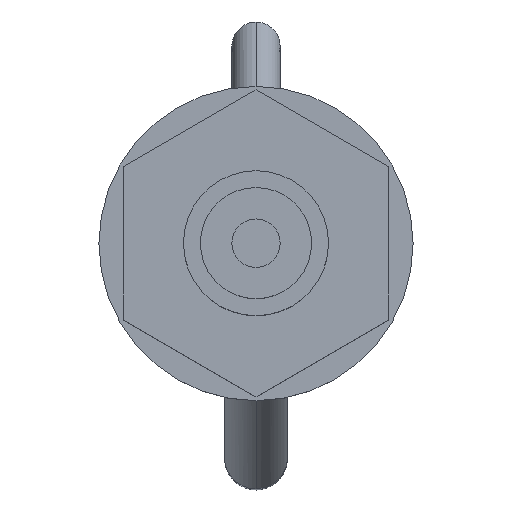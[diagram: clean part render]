
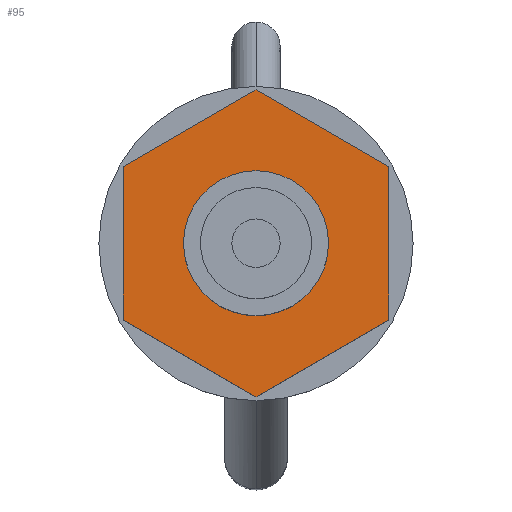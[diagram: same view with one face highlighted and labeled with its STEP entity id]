
A CAD part, top view. The second image highlights one B-rep face of the part: STEP entity #95.
In plain terms, the highlighted planar face has unit normal (0, 0, 1) as drawn and (-1, 0, 0) by its records, which use the part's own axes.
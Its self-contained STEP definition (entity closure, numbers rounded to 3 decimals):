
#39 = EDGE_CURVE ( 'NONE', #40, #107, #714, .T. ) ;
#40 = VERTEX_POINT ( 'NONE', #709 ) ;
#78 = EDGE_CURVE ( 'NONE', #79, #80, #771, .T. ) ;
#79 = VERTEX_POINT ( 'NONE', #767 ) ;
#80 = VERTEX_POINT ( 'NONE', #766 ) ;
#81 = ORIENTED_EDGE ( 'NONE', *, *, #82, .T. ) ;
#82 = EDGE_CURVE ( 'NONE', #80, #83, #765, .T. ) ;
#83 = VERTEX_POINT ( 'NONE', #761 ) ;
#84 = ORIENTED_EDGE ( 'NONE', *, *, #85, .T. ) ;
#85 = EDGE_CURVE ( 'NONE', #83, #86, #760, .T. ) ;
#86 = VERTEX_POINT ( 'NONE', #756 ) ;
#87 = ORIENTED_EDGE ( 'NONE', *, *, #88, .T. ) ;
#88 = EDGE_CURVE ( 'NONE', #86, #89, #755, .T. ) ;
#89 = VERTEX_POINT ( 'NONE', #751 ) ;
#90 = ORIENTED_EDGE ( 'NONE', *, *, #91, .T. ) ;
#91 = EDGE_CURVE ( 'NONE', #89, #92, #750, .T. ) ;
#92 = VERTEX_POINT ( 'NONE', #811 ) ;
#95 = ADVANCED_FACE ( 'NONE', ( #806, #805 ), #804, .F. ) ;
#102 = EDGE_LOOP ( 'NONE', ( #1136, #81, #84, #87, #90, #141 ) ) ;
#107 = VERTEX_POINT ( 'NONE', #782 ) ;
#141 = ORIENTED_EDGE ( 'NONE', *, *, #142, .T. ) ;
#142 = EDGE_CURVE ( 'NONE', #92, #79, #860, .T. ) ;
#143 = EDGE_LOOP ( 'NONE', ( #144, #145 ) ) ;
#144 = ORIENTED_EDGE ( 'NONE', *, *, #39, .F. ) ;
#145 = ORIENTED_EDGE ( 'NONE', *, *, #146, .F. ) ;
#146 = EDGE_CURVE ( 'NONE', #107, #40, #856, .T. ) ;
#709 = CARTESIAN_POINT ( 'NONE',  ( 2.5, 1.5, 0. ) ) ;
#710 = DIRECTION ( 'NONE',  ( 0., -1., 0. ) ) ;
#711 = DIRECTION ( 'NONE',  ( -1., 0., 0. ) ) ;
#712 = CARTESIAN_POINT ( 'NONE',  ( 2.5, 0., 0. ) ) ;
#713 = AXIS2_PLACEMENT_3D ( 'NONE', #712, #711, #710 ) ;
#714 = CIRCLE ( 'NONE', #713, 1.5 ) ;
#748 = VECTOR ( 'NONE', #812, 1000. ) ;
#749 = CARTESIAN_POINT ( 'NONE',  ( 2.5, -3.175, 0. ) ) ;
#750 = LINE ( 'NONE', #749, #748 ) ;
#751 = CARTESIAN_POINT ( 'NONE',  ( 2.5, -3.175, 0. ) ) ;
#752 = DIRECTION ( 'NONE',  ( 0., -0.5, 0.866 ) ) ;
#753 = VECTOR ( 'NONE', #752, 1000. ) ;
#754 = CARTESIAN_POINT ( 'NONE',  ( 2.5, -1.588, -2.75 ) ) ;
#755 = LINE ( 'NONE', #754, #753 ) ;
#756 = CARTESIAN_POINT ( 'NONE',  ( 2.5, -1.588, -2.75 ) ) ;
#757 = DIRECTION ( 'NONE',  ( 0., -1., 0. ) ) ;
#758 = VECTOR ( 'NONE', #757, 1000. ) ;
#759 = CARTESIAN_POINT ( 'NONE',  ( 2.5, 1.588, -2.75 ) ) ;
#760 = LINE ( 'NONE', #759, #758 ) ;
#761 = CARTESIAN_POINT ( 'NONE',  ( 2.5, 1.588, -2.75 ) ) ;
#762 = DIRECTION ( 'NONE',  ( 0., -0.5, -0.866 ) ) ;
#763 = VECTOR ( 'NONE', #762, 1000. ) ;
#764 = CARTESIAN_POINT ( 'NONE',  ( 2.5, 3.175, 0. ) ) ;
#765 = LINE ( 'NONE', #764, #763 ) ;
#766 = CARTESIAN_POINT ( 'NONE',  ( 2.5, 3.175, 0. ) ) ;
#767 = CARTESIAN_POINT ( 'NONE',  ( 2.5, 1.588, 2.75 ) ) ;
#768 = DIRECTION ( 'NONE',  ( 0., 0.5, -0.866 ) ) ;
#769 = VECTOR ( 'NONE', #768, 1000. ) ;
#770 = CARTESIAN_POINT ( 'NONE',  ( 2.5, 1.588, 2.75 ) ) ;
#771 = LINE ( 'NONE', #770, #769 ) ;
#782 = CARTESIAN_POINT ( 'NONE',  ( 2.5, -1.5, 0. ) ) ;
#800 = DIRECTION ( 'NONE',  ( 0., 1., 0. ) ) ;
#801 = DIRECTION ( 'NONE',  ( 1., 0., 0. ) ) ;
#802 = CARTESIAN_POINT ( 'NONE',  ( 2.5, 0., 5.5 ) ) ;
#803 = AXIS2_PLACEMENT_3D ( 'NONE', #802, #801, #800 ) ;
#804 = PLANE ( 'NONE',  #803 ) ;
#805 = FACE_BOUND ( 'NONE', #143, .T. ) ;
#806 = FACE_OUTER_BOUND ( 'NONE', #102, .T. ) ;
#811 = CARTESIAN_POINT ( 'NONE',  ( 2.5, -1.588, 2.75 ) ) ;
#812 = DIRECTION ( 'NONE',  ( 0., 0.5, 0.866 ) ) ;
#852 = DIRECTION ( 'NONE',  ( 0., -1., 0. ) ) ;
#853 = DIRECTION ( 'NONE',  ( -1., 0., 0. ) ) ;
#854 = CARTESIAN_POINT ( 'NONE',  ( 2.5, 0., 0. ) ) ;
#855 = AXIS2_PLACEMENT_3D ( 'NONE', #854, #853, #852 ) ;
#856 = CIRCLE ( 'NONE', #855, 1.5 ) ;
#857 = DIRECTION ( 'NONE',  ( 0., 1., 0. ) ) ;
#858 = VECTOR ( 'NONE', #857, 1000. ) ;
#859 = CARTESIAN_POINT ( 'NONE',  ( 2.5, -1.588, 2.75 ) ) ;
#860 = LINE ( 'NONE', #859, #858 ) ;
#1136 = ORIENTED_EDGE ( 'NONE', *, *, #78, .T. ) ;
